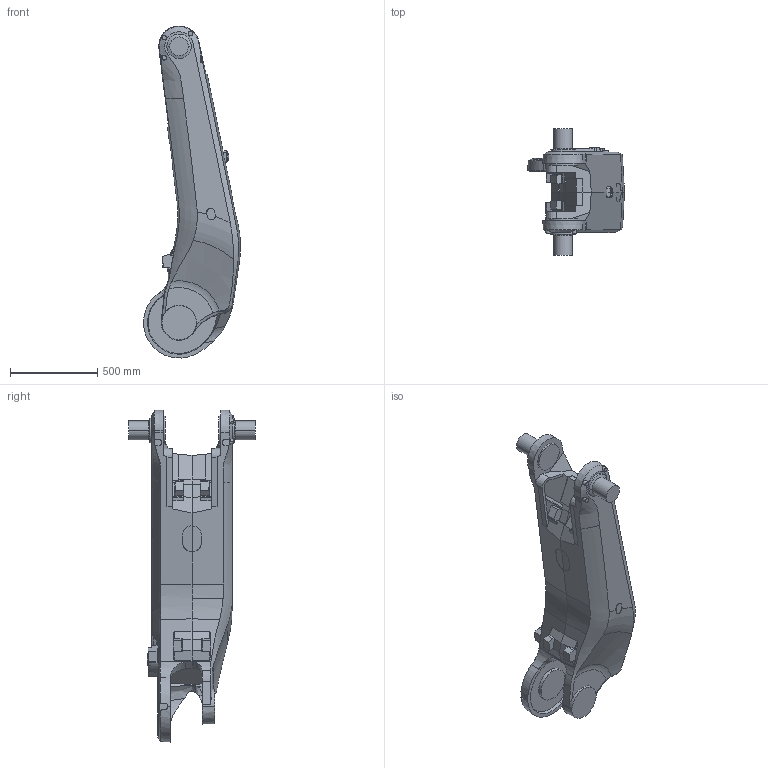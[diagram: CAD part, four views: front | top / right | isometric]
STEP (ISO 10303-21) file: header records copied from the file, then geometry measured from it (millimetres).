
FILE_DESCRIPTION (( 'STEP AP203' ), '1' );
FILE_NAME ('IRB8700_800-350_IRC5_rev00_LINK2_CAD.STEP', '2015-06-04T08:11:46', ( 'ABB' ), ( 'ABB' ), 'SwSTEP 2.0', 'SolidWorks 2014', '' );
FILE_SCHEMA (( 'CONFIG_CONTROL_DESIGN' ));
Length unit declared in the file: millimetre
Products named in the file (1): IRB8700_800-350_IRC5_rev00_LINK2_CAD
Bounding box: 554.49 x 726 x 1899.32 mm (x, y, z)
Volume: 183885762 mm3; surface area: 3255623.3 mm2
Topology: 1 solids, 1 shells, 428 faces, 1191 edges, 776 vertices
Faces by surface type: plane 255, cone 64, cylinder 56, bspline 47, torus 6
Entity records: 74153 total; most frequent: CARTESIAN_POINT 63810, ORIENTED_EDGE 2382, DIRECTION 1804, EDGE_CURVE 1191, VERTEX_POINT 776, VECTOR 704, LINE 704, AXIS2_PLACEMENT_3D 550
